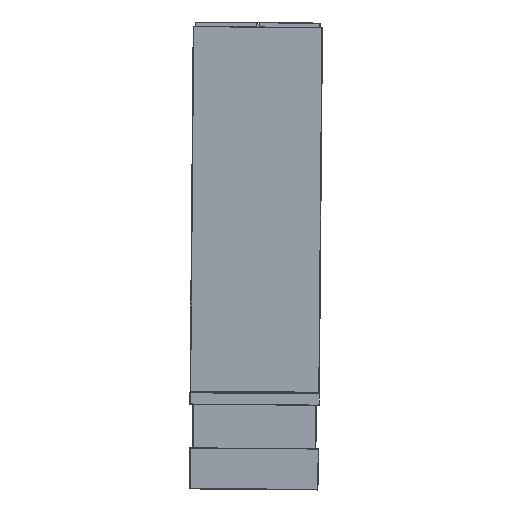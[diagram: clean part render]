
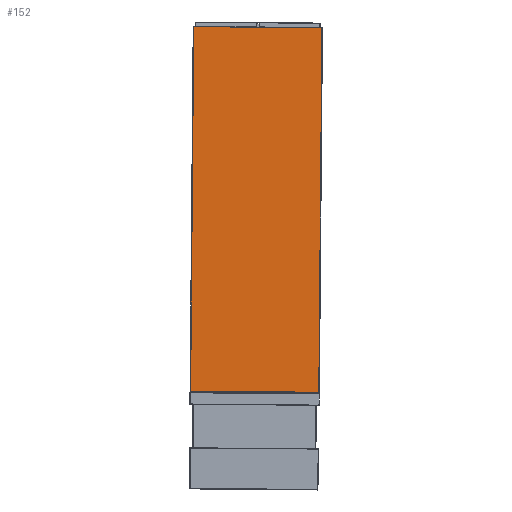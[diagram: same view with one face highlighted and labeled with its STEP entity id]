
A CAD part, front view. The second image highlights one B-rep face of the part: STEP entity #152.
In plain terms, the highlighted planar face has unit normal (0, -1, 0).
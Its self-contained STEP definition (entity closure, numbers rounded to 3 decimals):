
#1=DIRECTION('',(1.,0.,-0.009));
#2=VECTOR('',#1,109.);
#3=CARTESIAN_POINT('',(2.883,0.,278.592));
#4=LINE('',#3,#2);
#5=DIRECTION('',(-0.009,0.,-1.));
#6=VECTOR('',#5,310.);
#7=CARTESIAN_POINT('',(2.883,0.,278.592));
#8=LINE('',#7,#6);
#59=DIRECTION('',(1.,0.,-0.009));
#60=VECTOR('',#59,109.);
#61=CARTESIAN_POINT('',(0.229,0.,
-31.397));
#62=LINE('',#61,#60);
#85=DIRECTION('',(0.009,0.,1.));
#86=VECTOR('',#85,310.);
#87=CARTESIAN_POINT('',(109.225,0.,
-32.33));
#88=LINE('',#87,#86);
#105=CARTESIAN_POINT('',(2.883,0.,
278.592));
#106=CARTESIAN_POINT('',(0.229,0.,
-31.397));
#107=VERTEX_POINT('',#105);
#108=VERTEX_POINT('',#106);
#109=CARTESIAN_POINT('',(111.879,0.,277.659));
#110=VERTEX_POINT('',#109);
#111=CARTESIAN_POINT('',(109.225,0.,
-32.33));
#112=VERTEX_POINT('',#111);
#137=CARTESIAN_POINT('',(112.379,0.,277.655));
#138=DIRECTION('',(0.,-1.,0.));
#139=DIRECTION('',(-1.,0.,0.009));
#140=AXIS2_PLACEMENT_3D('',#137,#138,#139);
#141=PLANE('',#140);
#143=ORIENTED_EDGE('',*,*,#142,.F.);
#145=ORIENTED_EDGE('',*,*,#144,.T.);
#147=ORIENTED_EDGE('',*,*,#146,.F.);
#149=ORIENTED_EDGE('',*,*,#148,.F.);
#150=EDGE_LOOP('',(#143,#145,#147,#149));
#151=FACE_OUTER_BOUND('',#150,.F.);
#152=ADVANCED_FACE('',(#151),#141,.T.);
#142=EDGE_CURVE('',#107,#108,#8,.T.);
#144=EDGE_CURVE('',#107,#110,#4,.T.);
#146=EDGE_CURVE('',#112,#110,#88,.T.);
#148=EDGE_CURVE('',#108,#112,#62,.T.);
